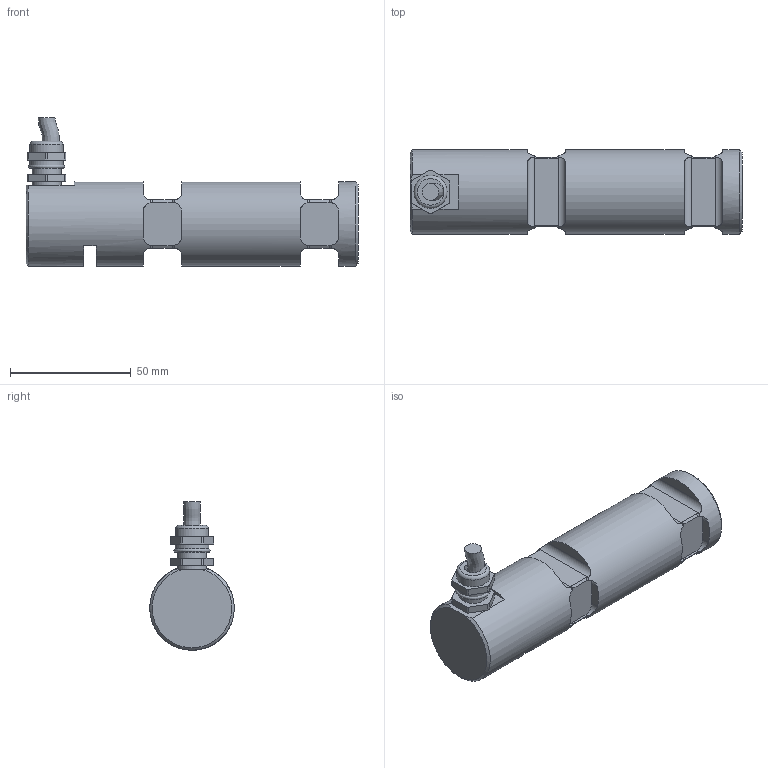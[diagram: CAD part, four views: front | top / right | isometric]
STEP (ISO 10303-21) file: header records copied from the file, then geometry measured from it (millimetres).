
FILE_DESCRIPTION(/* description */ ('Alibre Inc.'),/* implementation_level */ '2;1');
FILE_NAME(/* name */ 'export0',/* time_stamp */ '2011-09-16T13:52:17+02:00',/* author */ (''),/* organization */ (''),/* preprocessor_version */ 'ST-DEVELOPER v10',/* originating_system */ 'Alibre',/* authorisation */ '');
FILE_SCHEMA (('ALIBRE_SCHEMA','CONFIG_CONTROL_DESIGN'));
Length unit declared in the file: centimetre
Products named in the file (6): ID_1
Bounding box: 137.5 x 35 x 61.5 mm (x, y, z)
Volume: 120212.6 mm3; surface area: 21768.5 mm2
Topology: 4 solids, 4 shells, 137 faces, 351 edges, 226 vertices
Faces by surface type: plane 61, cylinder 54, torus 18, cone 3, bspline 1
Full cylindrical faces by diameter (mm): 7 x2, 10.376 x1, 12 x2, 13.7 x1, 14 x1, 35 x3
Entity records: 14280 total; most frequent: CARTESIAN_POINT 3723, PERSISTANTTOPOLOGYATTRIBUTE 1087, DIRECTION 765, ORIENTED_EDGE 662, REFERENCEDEPENDENTUV 547, CONSTRAINTPAIRUV 504, VECTOR 386, EDGE_CURVE 331
